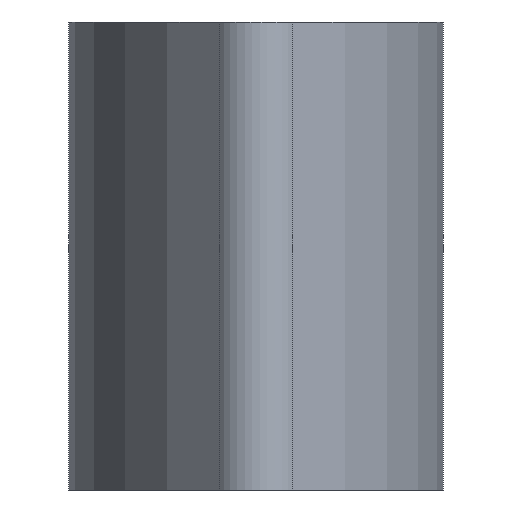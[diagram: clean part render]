
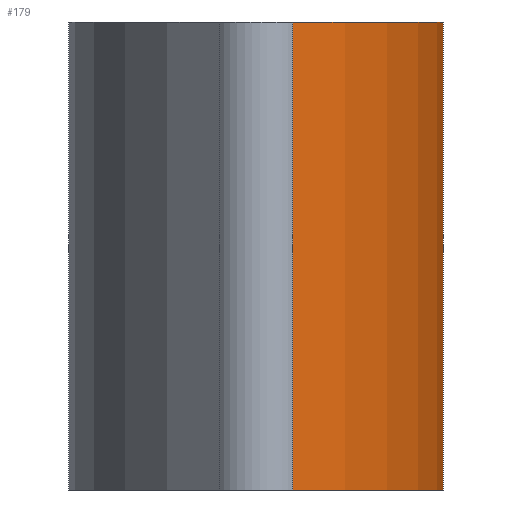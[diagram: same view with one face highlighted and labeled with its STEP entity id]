
A CAD part, front view. The second image highlights one B-rep face of the part: STEP entity #179.
In plain terms, the highlighted cylindrical face has radius 10 mm (diameter 20 mm), a partial arc.
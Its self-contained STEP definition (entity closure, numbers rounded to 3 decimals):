
#24=FACE_OUTER_BOUND('',#34,.T.);
#34=EDGE_LOOP('',(#126,#127,#128,#129));
#48=LINE('',#285,#62);
#49=LINE('',#288,#63);
#62=VECTOR('',#229,10.);
#63=VECTOR('',#232,10.);
#76=CIRCLE('',#204,10.);
#77=CIRCLE('',#205,10.);
#86=VERTEX_POINT('',#281);
#87=VERTEX_POINT('',#282);
#88=VERTEX_POINT('',#284);
#89=VERTEX_POINT('',#286);
#102=EDGE_CURVE('',#86,#87,#76,.T.);
#103=EDGE_CURVE('',#87,#88,#48,.T.);
#104=EDGE_CURVE('',#88,#89,#77,.T.);
#105=EDGE_CURVE('',#89,#86,#49,.T.);
#126=ORIENTED_EDGE('',*,*,#102,.T.);
#127=ORIENTED_EDGE('',*,*,#103,.T.);
#128=ORIENTED_EDGE('',*,*,#104,.T.);
#129=ORIENTED_EDGE('',*,*,#105,.T.);
#174=CYLINDRICAL_SURFACE('',#203,10.);
#179=ADVANCED_FACE('',(#24),#174,.T.);
#203=AXIS2_PLACEMENT_3D('',#280,#225,#226);
#204=AXIS2_PLACEMENT_3D('',#283,#227,#228);
#205=AXIS2_PLACEMENT_3D('',#287,#230,#231);
#225=DIRECTION('center_axis',(0.,0.,
-1.));
#226=DIRECTION('ref_axis',(1.,0.,0.));
#227=DIRECTION('center_axis',(0.,0.,
-1.));
#228=DIRECTION('ref_axis',(1.,0.,0.));
#229=DIRECTION('',(0.,0.,-1.));
#230=DIRECTION('center_axis',(0.,0.,
1.));
#231=DIRECTION('ref_axis',(1.,0.,0.));
#232=DIRECTION('',(0.,0.,1.));
#280=CARTESIAN_POINT('Origin',(-25.274,18.142,81.584));
#281=CARTESIAN_POINT('',(-15.274,18.142,79.084));
#282=CARTESIAN_POINT('',(-18.485,10.8,79.084));
#283=CARTESIAN_POINT('Origin',(-25.274,18.142,79.084));
#284=CARTESIAN_POINT('',(-18.485,10.8,69.084));
#285=CARTESIAN_POINT('',(-18.485,10.8,69.084));
#286=CARTESIAN_POINT('',(-15.274,18.142,69.084));
#287=CARTESIAN_POINT('Origin',(-25.274,18.142,69.084));
#288=CARTESIAN_POINT('',(-15.274,18.142,81.584));
